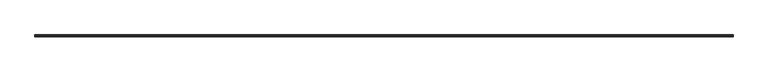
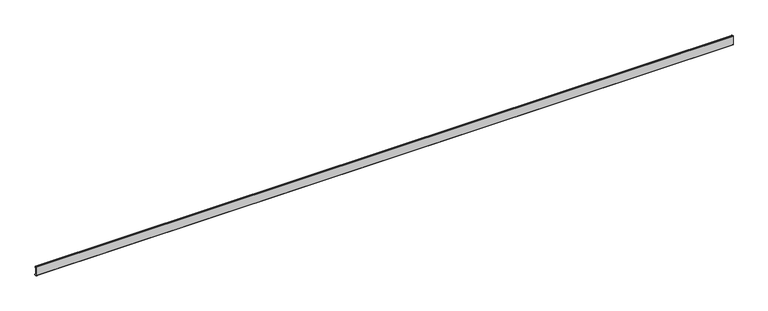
"""IFC4 building model written with IfcOpenShell, lengths in millimetres: proxy geometry, Weiku - Montante - Capa de folha 02.3.02.406 : Weiku - Montante - Capa de folha 02.3.02.406."""

from ifc_helpers import new_model, si_unit, point, frame, frame_2d, origin, place, context, project, spatial, polyline, circle_curve, trimmed, segment, composite_curve, outline, extrude, source, transform, mapped, element, save


def generic_models_d421d388(model_context):
    return source(origin(), model_context, "Body", "SweptSolid", [
        extrude(outline(composite_curve([segment(polyline([(4.6421508, 2.2715508), (5.3603515, 1.056104)]), True, "CONTINUOUS"), segment(trimmed(circle_curve(frame_2d((4.7576991, 0.7)), 0.7), [point((5.3603515, 1.056104))], [point((4.7576991, 0.0))], False, "CARTESIAN"), True, "CONTINUOUS"), segment(polyline([(4.7576991, 0.0), (0.5, 0.0)]), True, "CONTINUOUS"), segment(trimmed(circle_curve(frame_2d((0.5, 0.5)), 0.5), [point((0.5, 0.0))], [point((0.0, 0.5))], False, "CARTESIAN"), True, "CONTINUOUS"), segment(polyline([(0.0, 0.5), (0.0, 26.2)]), True, "CONTINUOUS"), segment(trimmed(circle_curve(frame_2d((0.5, 26.2)), 0.5), [point((0.0, 26.2))], [point((0.5, 26.7))], False, "CARTESIAN"), True, "CONTINUOUS"), segment(polyline([(0.5, 26.7), (3.78, 26.7)]), True, "CONTINUOUS"), segment(trimmed(circle_curve(frame_2d((3.78, 26.2)), 0.5), [point((3.78, 26.7))], [point((4.28, 26.2))], False, "CARTESIAN"), True, "CONTINUOUS"), segment(polyline([(4.28, 26.2), (4.28, 22.3396), (3.3063, 22.3396), (3.3063, 25.684), (1.6933, 25.684), (1.6933, 1.016), (3.3866, 1.016), (4.6421508, 2.2715508)]), True, "CONTINUOUS")], self_intersect=False)), frame((-980.2, 0.0, 0.0), z_axis=(1.0, 0.0, 0.0), x_axis=(0.0, 1.0, 0.0)), (0.0, 0.0, 1.0), 1960.4),
    ])


if __name__ == "__main__":
    model = new_model("IFC4")
    model_context = context("Model", 3, world=origin())
    ifc_project = project(units=[si_unit("LENGTHUNIT", "METRE", prefix="MILLI")], contexts=[model_context])
    site = spatial("IfcSite", under=ifc_project)
    building = spatial("IfcBuilding", under=site)
    placement = place(None, origin())
    generic_models_shape = generic_models_d421d388(model_context)
    element("IfcBuildingElementProxy", 1, Name="Weiku - Montante - Capa de folha 02.3.02.406 : Weiku - Montante - Capa de folha 02.3.02.406", ObjectType="Weiku - Montante - Capa de folha 02.3.02.406 : Weiku - Montante - Capa de folha 02.3.02.406", at=placement, inside=building, context=model_context, shape_type="MappedRepresentation", body=[
        mapped(generic_models_shape, transform((0.0, 0.0, 0.0), x_axis=(1.0, 0.0, 0.0), y_axis=(0.0, 1.0, 0.0), z_axis=(0.0, 0.0, 1.0))),
    ])
    save(model, "model.ifc")
